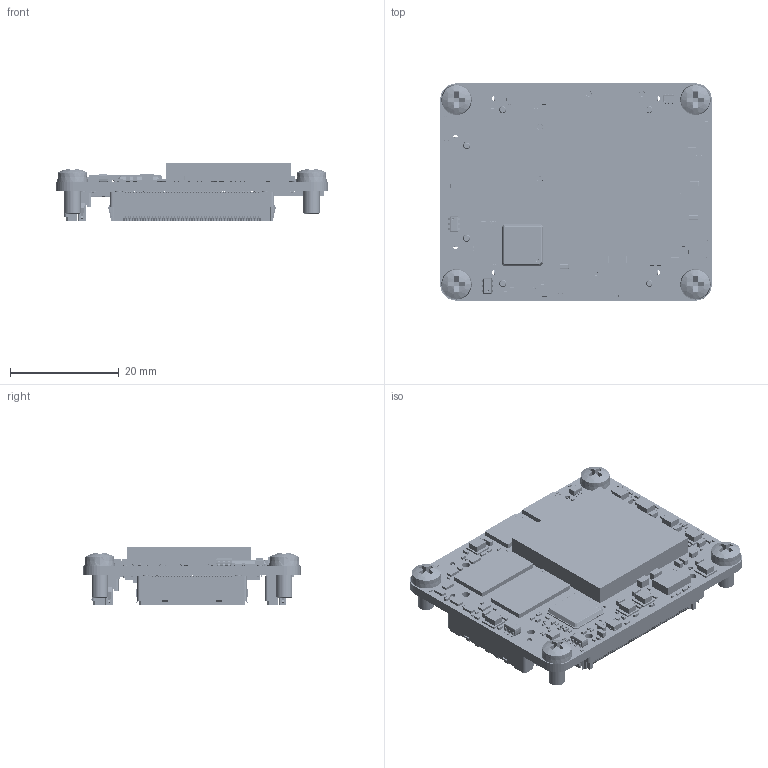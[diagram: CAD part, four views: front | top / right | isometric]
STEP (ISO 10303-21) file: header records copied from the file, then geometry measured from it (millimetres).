
FILE_DESCRIPTION(('Open CASCADE Model'),'2;1');
FILE_NAME('Open CASCADE Shape Model','2024-05-29T13:39:11',('Author'),( 'Open CASCADE'),'Open CASCADE STEP processor 7.5','Open CASCADE 7.5' ,'Unknown');
FILE_SCHEMA(('AUTOMOTIVE_DESIGN { 1 0 10303 214 1 1 1 1 }'));
Length unit declared in the file: millimetre
Products named in the file (448): PCB; BoardTE0821; Open CASCADE STEP translator 7.5 1.1.1; R122TE0821; RES_0603-0201; C189TE0821; 7624730992; C188TE0821; User Library-SMD CAPACITOR0402; C187TE0821; C186TE0821; C185TE0821; User Library-SMD 0201 CAPACITOR; C184TE0821; C183TE0821; C182TE0821; C181TE0821; C180TE0821; C179TE0821; R121TE0821; R120TE0821; R119TE0821; R118TE0821; C178TE0821; R117TE0821; 7624738272; R116TE0821; 7624733712; T2TE0821; 9164103200; R115TE0821; R114TE0821; R113TE0821; 7624721872; U28TE0821; 9307869008; Cylinder; 9307868848; Extruded; R112TE0821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
Assembly tree (778 placements, depth 4):
  PCB
    BoardTE0821
      Open CASCADE STEP translator 7.5 1.1.1
    R122TE0821
      RES_0603-0201
    C189TE0821
      7624730992
    C188TE0821
      User Library-SMD CAPACITOR0402
    C187TE0821
      User Library-SMD CAPACITOR0402
    C186TE0821
      User Library-SMD CAPACITOR0402
    C185TE0821
      User Library-SMD 0201 CAPACITOR
    C184TE0821
      User Library-SMD 0201 CAPACITOR
    C183TE0821
      User Library-SMD 0201 CAPACITOR
    C182TE0821
      User Library-SMD 0201 CAPACITOR
    C181TE0821
      User Library-SMD 0201 CAPACITOR
    C180TE0821
      User Library-SMD 0201 CAPACITOR
    C179TE0821
      User Library-SMD 0201 CAPACITOR
    R121TE0821
      RES_0603-0201
    R120TE0821
      RES_0603-0201
    R119TE0821
      RES_0603-0201
    R118TE0821
      RES_0603-0201
    C178TE0821
      User Library-SMD 0201 CAPACITOR
    R117TE0821
      7624738272
    R116TE0821
      7624733712
    T2TE0821
      9164103200
    R115TE0821
      RES_0603-0201
    R114TE0821
      RES_0603-0201
    R113TE0821
      7624721872
    U28TE0821
      9307869008
        Cylinder
      9307868848
        Extruded
    R112TE0821
      7624726512
    R111TE0821
      RES_0603-0201
    R110TE0821
      7624721872
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Bounding box: 50 x 40 x 10.52 mm (x, y, z)
Volume: 7744.3 mm3; surface area: 18026.8 mm2
Topology: 1366 solids, 1370 shells, 27297 faces, 70798 edges, 43365 vertices
Faces by surface type: plane 17452, cylinder 7078, sphere 2650, bspline 52, cone 37, torus 28
Full cylindrical faces by diameter (mm): 0.2 x9, 0.4 x3, 0.6 x2, 0.8 x4, 1 x12, 1.32 x3, 1.45 x6, 3.2 x4
Entity records: 387017 total; most frequent: CARTESIAN_POINT 61171, ORIENTED_EDGE 53238, DIRECTION 50958, EDGE_CURVE 26619, LINE 21194, VECTOR 21194, VERTEX_POINT 17691, AXIS2_PLACEMENT_3D 14882
